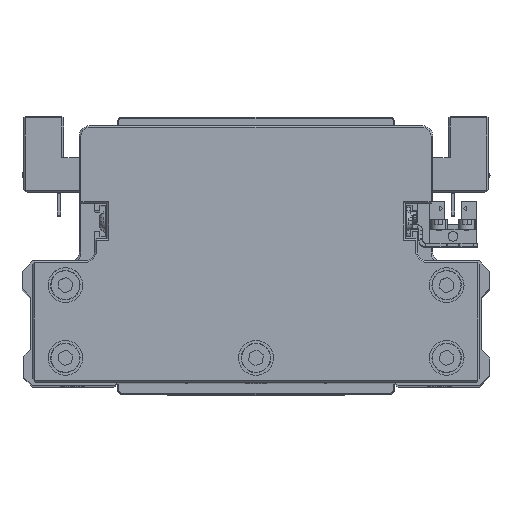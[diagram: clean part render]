
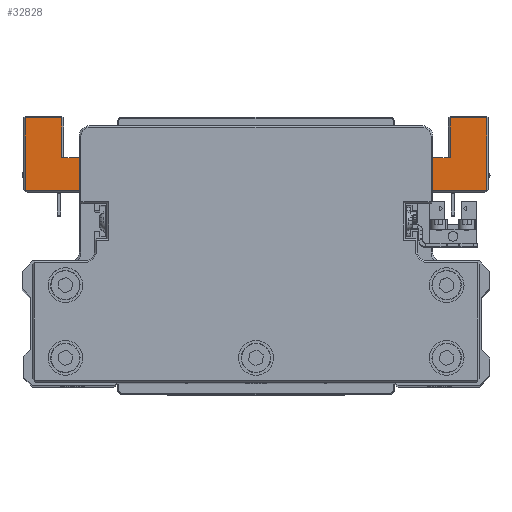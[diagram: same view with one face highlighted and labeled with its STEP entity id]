
A CAD part, top view. The second image highlights one B-rep face of the part: STEP entity #32828.
In plain terms, the highlighted planar face has unit normal (0, 0, 1) as drawn and (0, -1, 0) by its records, which use the part's own axes.
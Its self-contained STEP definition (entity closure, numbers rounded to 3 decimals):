
#389 = CARTESIAN_POINT ( 'NONE',  ( 46., -45., -54. ) ) ;
#672 = VERTEX_POINT ( 'NONE', #24059 ) ;
#1227 = LINE ( 'NONE', #13353, #4360 ) ;
#1875 = VECTOR ( 'NONE', #4657, 1000. ) ;
#2070 = CARTESIAN_POINT ( 'NONE',  ( -55.5, -45., -52.5 ) ) ;
#2317 = ORIENTED_EDGE ( 'NONE', *, *, #32694, .T. ) ;
#2513 = CARTESIAN_POINT ( 'NONE',  ( 56., -45., -64. ) ) ;
#3052 = CARTESIAN_POINT ( 'NONE',  ( 66.5, -45., -43.5 ) ) ;
#3075 = LINE ( 'NONE', #15191, #17685 ) ;
#3299 = EDGE_CURVE ( 'NONE', #7009, #13435, #1227, .T. ) ;
#3416 = VECTOR ( 'NONE', #24220, 1000. ) ;
#4067 = CARTESIAN_POINT ( 'NONE',  ( 0., -45., 0. ) ) ;
#4083 = CIRCLE ( 'NONE', #26290, 1.5 ) ;
#4360 = VECTOR ( 'NONE', #25468, 1000. ) ;
#4529 = VECTOR ( 'NONE', #31669, 1000. ) ;
#4657 = DIRECTION ( 'NONE',  ( 0., 0., 1. ) ) ;
#4818 = VERTEX_POINT ( 'NONE', #17545 ) ;
#5350 = AXIS2_PLACEMENT_3D ( 'NONE', #4067, #16172, #28301 ) ;
#5386 = LINE ( 'NONE', #17506, #28691 ) ;
#5726 = VERTEX_POINT ( 'NONE', #36322 ) ;
#6274 = CARTESIAN_POINT ( 'NONE',  ( 40.066, -45., -41.5 ) ) ;
#6284 = ORIENTED_EDGE ( 'NONE', *, *, #13169, .T. ) ;
#6459 = EDGE_CURVE ( 'NONE', #23097, #20238, #23078, .T. ) ;
#6541 = EDGE_CURVE ( 'NONE', #30532, #22016, #14531, .T. ) ;
#6682 = ORIENTED_EDGE ( 'NONE', *, *, #7573, .T. ) ;
#6939 = VECTOR ( 'NONE', #22420, 1000. ) ;
#7009 = VERTEX_POINT ( 'NONE', #11513 ) ;
#7293 = VECTOR ( 'NONE', #14184, 1000. ) ;
#7327 = DIRECTION ( 'NONE',  ( 0., 1., 0. ) ) ;
#7390 = LINE ( 'NONE', #19513, #4529 ) ;
#7489 = VECTOR ( 'NONE', #15173, 1000. ) ;
#7573 = EDGE_CURVE ( 'NONE', #35440, #30532, #37558, .T. ) ;
#7967 = DIRECTION ( 'NONE',  ( -1., 0., 0. ) ) ;
#7968 = EDGE_CURVE ( 'NONE', #26641, #15711, #12854, .T. ) ;
#8036 = ORIENTED_EDGE ( 'NONE', *, *, #15747, .T. ) ;
#8869 = VERTEX_POINT ( 'NONE', #24483 ) ;
#8939 = CARTESIAN_POINT ( 'NONE',  ( -77.786, -45., -42.5 ) ) ;
#9799 = CARTESIAN_POINT ( 'NONE',  ( 46., -45., -54. ) ) ;
#9861 = ORIENTED_EDGE ( 'NONE', *, *, #37077, .T. ) ;
#10312 = CARTESIAN_POINT ( 'NONE',  ( -55.5, -45., -64. ) ) ;
#10506 = EDGE_CURVE ( 'NONE', #672, #8869, #14733, .T. ) ;
#10775 = EDGE_CURVE ( 'NONE', #35683, #7009, #36151, .T. ) ;
#10889 = ORIENTED_EDGE ( 'NONE', *, *, #6541, .T. ) ;
#10892 = ORIENTED_EDGE ( 'NONE', *, *, #6459, .T. ) ;
#11205 = EDGE_CURVE ( 'NONE', #4818, #12771, #19757, .T. ) ;
#11513 = CARTESIAN_POINT ( 'NONE',  ( -40.066, -45., -43. ) ) ;
#11566 = VERTEX_POINT ( 'NONE', #13531 ) ;
#11850 = DIRECTION ( 'NONE',  ( 0., 0., -1. ) ) ;
#12113 = CARTESIAN_POINT ( 'NONE',  ( 55.5, -45., -52.5 ) ) ;
#12301 = CARTESIAN_POINT ( 'NONE',  ( 56., -45., -52.5 ) ) ;
#12498 = LINE ( 'NONE', #12113, #3416 ) ;
#12518 = DIRECTION ( 'NONE',  ( 1., 0., 0. ) ) ;
#12769 = CARTESIAN_POINT ( 'NONE',  ( -46., -45., -52.5 ) ) ;
#12771 = VERTEX_POINT ( 'NONE', #12769 ) ;
#12854 = LINE ( 'NONE', #24968, #29195 ) ;
#13169 = EDGE_CURVE ( 'NONE', #4818, #37180, #27622, .T. ) ;
#13353 = CARTESIAN_POINT ( 'NONE',  ( -66., -45., -43. ) ) ;
#13435 = VERTEX_POINT ( 'NONE', #38334 ) ;
#13531 = CARTESIAN_POINT ( 'NONE',  ( -36.217, -45., -42.5 ) ) ;
#13998 = EDGE_CURVE ( 'NONE', #15711, #23097, #30281, .T. ) ;
#14184 = DIRECTION ( 'NONE',  ( -1., 0., 0. ) ) ;
#14479 = VECTOR ( 'NONE', #38803, 1000. ) ;
#14531 = LINE ( 'NONE', #26666, #14479 ) ;
#14733 = LINE ( 'NONE', #26854, #33589 ) ;
#15173 = DIRECTION ( 'NONE',  ( 0., 0., 1. ) ) ;
#15191 = CARTESIAN_POINT ( 'NONE',  ( -39.868, -45., -42.987 ) ) ;
#15509 = CARTESIAN_POINT ( 'NONE',  ( -56., -45., -64. ) ) ;
#15711 = VERTEX_POINT ( 'NONE', #23820 ) ;
#15747 = EDGE_CURVE ( 'NONE', #8869, #11566, #36177, .T. ) ;
#16172 = DIRECTION ( 'NONE',  ( 0., -1., 0. ) ) ;
#16652 = ORIENTED_EDGE ( 'NONE', *, *, #11205, .F. ) ;
#16848 = EDGE_CURVE ( 'NONE', #13435, #35440, #7390, .T. ) ;
#17506 = CARTESIAN_POINT ( 'NONE',  ( 46., -45., -52.5 ) ) ;
#17545 = CARTESIAN_POINT ( 'NONE',  ( -46., -45., -54. ) ) ;
#17685 = VECTOR ( 'NONE', #27325, 1000. ) ;
#18290 = VECTOR ( 'NONE', #7967, 1000. ) ;
#18397 = DIRECTION ( 'NONE',  ( 0., 1., 0. ) ) ;
#18734 = CARTESIAN_POINT ( 'NONE',  ( 66.5, -45., -43. ) ) ;
#18978 = AXIS2_PLACEMENT_3D ( 'NONE', #34569, #7327, #19443 ) ;
#19163 = FACE_OUTER_BOUND ( 'NONE', #20882, .T. ) ;
#19240 = ORIENTED_EDGE ( 'NONE', *, *, #10775, .T. ) ;
#19443 = DIRECTION ( 'NONE',  ( 0., 0., -1. ) ) ;
#19513 = CARTESIAN_POINT ( 'NONE',  ( -66.5, -45., -64.5 ) ) ;
#19757 = LINE ( 'NONE', #31902, #1875 ) ;
#20238 = VERTEX_POINT ( 'NONE', #32816 ) ;
#20882 = EDGE_LOOP ( 'NONE', ( #8036, #9861, #19240, #31961, #26005, #6682, #10889, #24964, #16652, #6284, #31886, #38764, #26218, #39057, #37884, #10892, #2317, #23601 ) ) ;
#21054 = DIRECTION ( 'NONE',  ( -1., 0., 0. ) ) ;
#22016 = VERTEX_POINT ( 'NONE', #26810 ) ;
#22420 = DIRECTION ( 'NONE',  ( 1., 0., 0. ) ) ;
#22899 = EDGE_CURVE ( 'NONE', #12771, #22016, #29312, .T. ) ;
#22945 = CARTESIAN_POINT ( 'NONE',  ( -66.5, -45., -64. ) ) ;
#23030 = VECTOR ( 'NONE', #11850, 1000. ) ;
#23078 = LINE ( 'NONE', #35212, #18290 ) ;
#23097 = VERTEX_POINT ( 'NONE', #18734 ) ;
#23601 = ORIENTED_EDGE ( 'NONE', *, *, #10506, .T. ) ;
#23820 = CARTESIAN_POINT ( 'NONE',  ( 66.5, -45., -64. ) ) ;
#24059 = CARTESIAN_POINT ( 'NONE',  ( 39.868, -45., -42.987 ) ) ;
#24220 = DIRECTION ( 'NONE',  ( -1., 0., 0. ) ) ;
#24483 = CARTESIAN_POINT ( 'NONE',  ( 36.217, -45., -42.5 ) ) ;
#24964 = ORIENTED_EDGE ( 'NONE', *, *, #22899, .F. ) ;
#24968 = CARTESIAN_POINT ( 'NONE',  ( 67., -45., -64. ) ) ;
#25468 = DIRECTION ( 'NONE',  ( -1., 0., 0. ) ) ;
#26005 = ORIENTED_EDGE ( 'NONE', *, *, #16848, .T. ) ;
#26218 = ORIENTED_EDGE ( 'NONE', *, *, #31359, .T. ) ;
#26290 = AXIS2_PLACEMENT_3D ( 'NONE', #6274, #18397, #30546 ) ;
#26641 = VERTEX_POINT ( 'NONE', #2513 ) ;
#26666 = CARTESIAN_POINT ( 'NONE',  ( -56., -45., -52.5 ) ) ;
#26810 = CARTESIAN_POINT ( 'NONE',  ( -56., -45., -52.5 ) ) ;
#26854 = CARTESIAN_POINT ( 'NONE',  ( 25.802, -45., -41.111 ) ) ;
#26952 = LINE ( 'NONE', #39087, #23030 ) ;
#27325 = DIRECTION ( 'NONE',  ( -0.991, 0., -0.132 ) ) ;
#27622 = LINE ( 'NONE', #389, #27747 ) ;
#27747 = VECTOR ( 'NONE', #12518, 1000. ) ;
#28301 = DIRECTION ( 'NONE',  ( 0., 0., -1. ) ) ;
#28691 = VECTOR ( 'NONE', #29645, 1000. ) ;
#29195 = VECTOR ( 'NONE', #37107, 1000. ) ;
#29312 = LINE ( 'NONE', #2070, #7293 ) ;
#29613 = VERTEX_POINT ( 'NONE', #12301 ) ;
#29645 = DIRECTION ( 'NONE',  ( 0., 0., -1. ) ) ;
#30281 = LINE ( 'NONE', #3052, #7489 ) ;
#30377 = EDGE_CURVE ( 'NONE', #5726, #37180, #5386, .T. ) ;
#30532 = VERTEX_POINT ( 'NONE', #15509 ) ;
#30546 = DIRECTION ( 'NONE',  ( 0., 0., -1. ) ) ;
#31298 = PLANE ( 'NONE',  #5350 ) ;
#31359 = EDGE_CURVE ( 'NONE', #29613, #26641, #26952, .T. ) ;
#31669 = DIRECTION ( 'NONE',  ( 0., 0., -1. ) ) ;
#31886 = ORIENTED_EDGE ( 'NONE', *, *, #30377, .F. ) ;
#31902 = CARTESIAN_POINT ( 'NONE',  ( -46., -45., -52.5 ) ) ;
#31961 = ORIENTED_EDGE ( 'NONE', *, *, #3299, .T. ) ;
#32694 = EDGE_CURVE ( 'NONE', #20238, #672, #4083, .T. ) ;
#32816 = CARTESIAN_POINT ( 'NONE',  ( 40.066, -45., -43. ) ) ;
#32828 = ADVANCED_FACE ( 'NONE', ( #19163 ), #31298, .T. ) ;
#33470 = EDGE_CURVE ( 'NONE', #29613, #5726, #12498, .T. ) ;
#33589 = VECTOR ( 'NONE', #38988, 1000. ) ;
#34569 = CARTESIAN_POINT ( 'NONE',  ( -40.066, -45., -41.5 ) ) ;
#35212 = CARTESIAN_POINT ( 'NONE',  ( 40.066, -45., -43. ) ) ;
#35440 = VERTEX_POINT ( 'NONE', #22945 ) ;
#35683 = VERTEX_POINT ( 'NONE', #36645 ) ;
#36151 = CIRCLE ( 'NONE', #18978, 1.5 ) ;
#36177 = LINE ( 'NONE', #8939, #38101 ) ;
#36322 = CARTESIAN_POINT ( 'NONE',  ( 46., -45., -52.5 ) ) ;
#36645 = CARTESIAN_POINT ( 'NONE',  ( -39.868, -45., -42.987 ) ) ;
#37077 = EDGE_CURVE ( 'NONE', #11566, #35683, #3075, .T. ) ;
#37107 = DIRECTION ( 'NONE',  ( 1., 0., 0. ) ) ;
#37180 = VERTEX_POINT ( 'NONE', #9799 ) ;
#37558 = LINE ( 'NONE', #10312, #6939 ) ;
#37884 = ORIENTED_EDGE ( 'NONE', *, *, #13998, .T. ) ;
#38101 = VECTOR ( 'NONE', #21054, 1000. ) ;
#38334 = CARTESIAN_POINT ( 'NONE',  ( -66.5, -45., -43. ) ) ;
#38764 = ORIENTED_EDGE ( 'NONE', *, *, #33470, .F. ) ;
#38803 = DIRECTION ( 'NONE',  ( 0., 0., 1. ) ) ;
#38988 = DIRECTION ( 'NONE',  ( -0.991, 0., 0.132 ) ) ;
#39057 = ORIENTED_EDGE ( 'NONE', *, *, #7968, .T. ) ;
#39087 = CARTESIAN_POINT ( 'NONE',  ( 56., -45., -64.5 ) ) ;
